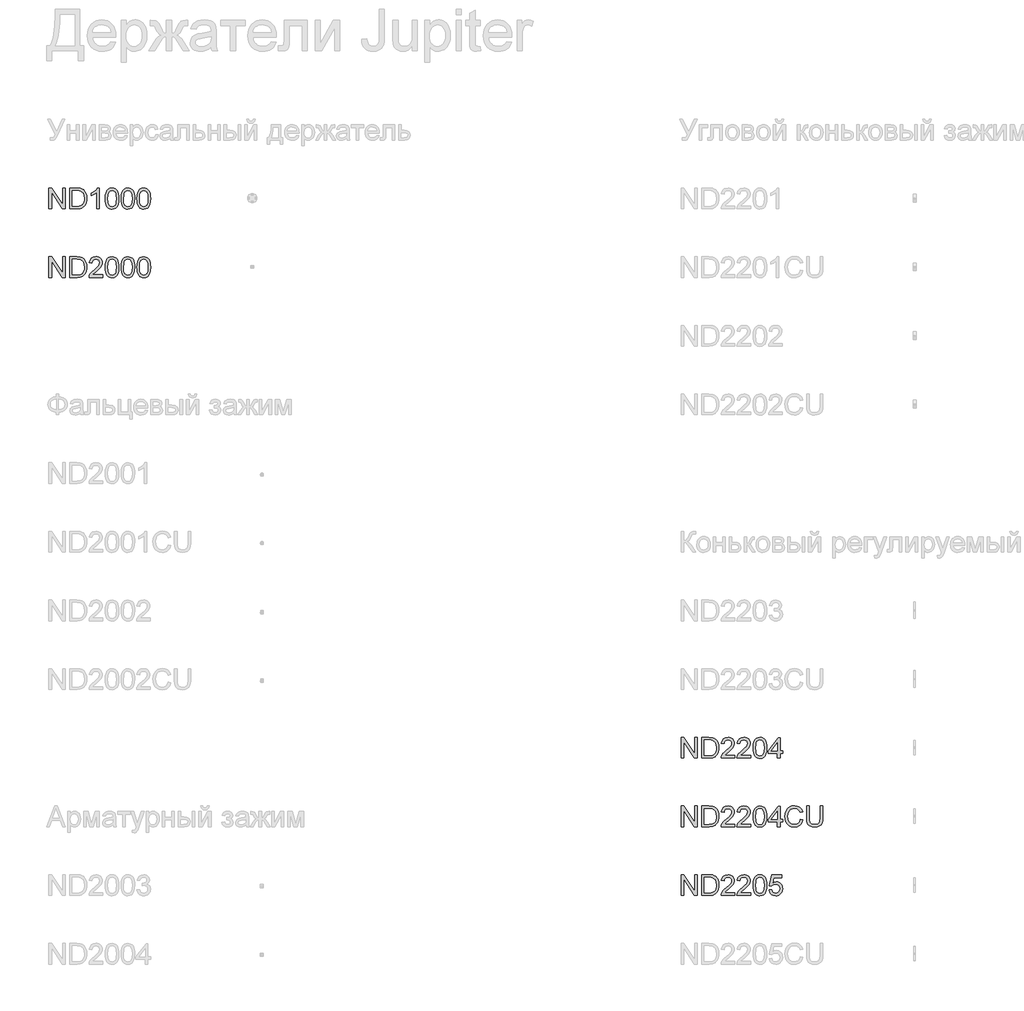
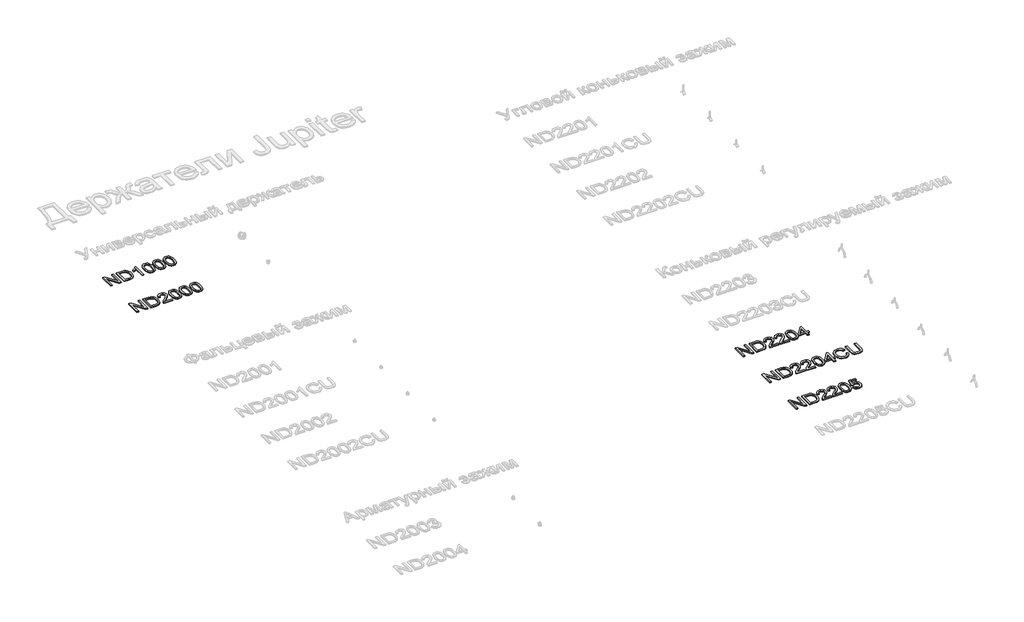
# One storey, part 98 of 124: 5 proxies.
"""IFC4 building model written with IfcOpenShell, lengths in millimetres."""

from ifc_helpers import new_model, si_unit, origin, origin_with_axes, place, context, project, spatial, polyline, outline, extrude, element, save

model = new_model("IFC4")

# Units and contexts
model_context = context("Model", 3, world=origin())
ifc_project = project(units=[si_unit("LENGTHUNIT", "METRE", prefix="MILLI")], contexts=[model_context])

# Site, building, storey
site = spatial("IfcSite", under=ifc_project)
building = spatial("IfcBuilding", under=site)
storey = spatial("IfcBuildingStorey", under=building, Name="Этаж 01", Elevation=0.0)

# Proxies
placement = place(None, origin())
element("IfcBuildingElementProxy", 1, Name="300", ObjectType="300", at=placement, inside=storey, context=model_context, shape_type="SweptSolid", body=[
    extrude(outline(polyline([(14140.1671275, -5519.5141033), (14140.1671275, -5218.1451728), (14180.4869942, -5218.1451728), (14337.9404881, -5456.9005877), (14337.9404881, -5218.1451728), (14375.6116044, -5218.1451728), (14375.6116044, -5519.5141033), (14335.2917378, -5519.5141033), (14177.8382438, -5280.685112), (14177.8382438, -5519.5141033), (14140.1671275, -5519.5141033)])), origin_with_axes(), (0.0, 0.0, 1.0), 20.0),
    extrude(outline(polyline([(14441.536058, -5519.5141033), (14441.536058, -5218.1451728), (14545.4995098, -5218.1451728), (14599.2838575, -5222.4861804), (14623.3065518, -5230.8554957), (14643.5768497, -5244.0440653), (14664.4173648, -5266.9999018), (14679.2614033, -5295.5475446), (14688.1457534, -5329.1351708), (14691.1072035, -5367.2109573), (14689.1022466, -5399.5569817), (14683.087376, -5428.0218511), (14673.9271143, -5452.2560775), (14662.4859843, -5471.9101731), (14649.3158089, -5487.4255962), (14634.968411, -5499.2438053), (14618.4964947, -5508.0085939), (14598.9527637, -5514.3637553), (14550.5027049, -5519.5141033), (14441.536058, -5519.5141033)]), holes=[polyline([(14479.2071743, -5481.842987), (14545.8673918, -5481.842987), (14573.4401473, -5480.4818236), (14594.3542388, -5476.3983334), (14610.1363764, -5469.8316398), (14622.3132704, -5461.020866), (14635.4006724, -5444.7144966), (14645.2323187, -5423.6072671), (14651.3851451, -5397.6072071), (14653.4360872, -5366.6223461), (14649.4169764, -5325.5667154), (14637.359644, -5295.253239), (14619.5449584, -5274.4311181), (14598.2537879, -5261.8495538), (14576.5855384, -5257.3246053), (14544.8373222, -5255.8162891), (14479.2071743, -5255.8162891), (14479.2071743, -5481.842987)])]), origin_with_axes(), (0.0, 0.0, 1.0), 20.0),
    extrude(outline(polyline([(14870.045006, -5519.5141033), (14832.3738897, -5519.5141033), (14832.3738897, -5284.6582375), (14796.6893361, -5310.0788834), (14757.031657, -5329.0983826), (14757.031657, -5293.4874054), (14786.6185665, -5277.3925681), (14812.2507445, -5258.2443103), (14832.4566631, -5237.8820419), (14845.7647943, -5218.1451728), (14870.045006, -5218.1451728), (14870.045006, -5519.5141033)])), origin_with_axes(), (0.0, 0.0, 1.0), 20.0),
    extrude(outline(polyline([(14959.5139072, -5371.2576592), (14962.2822192, -5323.0191326), (14970.5871552, -5284.5478729), (14984.3459419, -5255.2552691), (15003.4758056, -5234.5527098), (15028.1147022, -5222.2470571), (15058.4005875, -5218.1451728), (15081.6139414, -5220.573194), (15102.3992741, -5227.8572575), (15119.7816984, -5239.7122548), (15132.7863269, -5255.8530773), (15142.6087762, -5276.1417694), (15150.4446627, -5300.4403751), (15155.5766165, -5331.2964775), (15157.2872678, -5371.2576592), (15154.5465469, -5419.2202743), (15146.3243843, -5457.5995635), (15132.6483712, -5486.9197585), (15113.5460986, -5507.7050912), (15088.8520196, -5520.0935174), (15058.4005875, -5524.2229928), (15037.652043, -5522.4295681), (15019.2579432, -5517.0492939), (15003.2182882, -5508.0821703), (14989.533078, -5495.5281972), (14976.3996908, -5472.8344766), (14967.0186999, -5444.5581467), (14961.3901054, -5410.6992076), (14959.5139072, -5371.2576592)]), holes=[polyline([(14997.1850235, -5371.1840828), (15001.5996074, -5430.4406752), (15007.1178374, -5450.7086739), (15014.8433593, -5464.7364742), (15034.5618342, -5481.0980259), (15058.4005875, -5486.5518765), (15082.2393408, -5481.0796318), (15101.9578157, -5464.6628978), (15109.6833376, -5450.6121048), (15115.2015675, -5430.3487047), (15119.6161515, -5371.1840828), (15115.3487203, -5313.2610627), (15110.0144314, -5293.0597426), (15102.5464269, -5278.6985492), (15082.8647402, -5261.5368541), (15057.9591291, -5255.8162891), (15034.3778932, -5260.8562725), (15015.4319705, -5275.9762225), (15007.4489312, -5291.6112072), (15001.7467602, -5312.6908456), (14997.1850235, -5371.1840828)])]), origin_with_axes(), (0.0, 0.0, 1.0), 20.0),
    extrude(outline(polyline([(15190.2494946, -5371.2576592), (15193.0178066, -5323.0191326), (15201.3227426, -5284.5478729), (15215.0815292, -5255.2552691), (15234.211393, -5234.5527098), (15258.8502896, -5222.2470571), (15289.1361749, -5218.1451728), (15312.3495288, -5220.573194), (15333.1348615, -5227.8572575), (15350.5172858, -5239.7122548), (15363.5219143, -5255.8530773), (15373.3443636, -5276.1417694), (15381.1802501, -5300.4403751), (15386.3122039, -5331.2964775), (15388.0228552, -5371.2576592), (15385.2821343, -5419.2202743), (15377.0599717, -5457.5995635), (15363.3839585, -5486.9197585), (15344.2816859, -5507.7050912), (15319.587607, -5520.0935174), (15289.1361749, -5524.2229928), (15268.3876303, -5522.4295681), (15249.9935306, -5517.0492939), (15233.9538756, -5508.0821703), (15220.2686654, -5495.5281972), (15207.1352781, -5472.8344766), (15197.7542873, -5444.5581467), (15192.1256927, -5410.6992076), (15190.2494946, -5371.2576592)]), holes=[polyline([(15227.9206109, -5371.1840828), (15232.3351948, -5430.4406752), (15237.8534247, -5450.7086739), (15245.5789466, -5464.7364742), (15265.2974216, -5481.0980259), (15289.1361749, -5486.5518765), (15312.9749282, -5481.0796318), (15332.6934031, -5464.6628978), (15340.418925, -5450.6121048), (15345.9371549, -5430.3487047), (15350.3517389, -5371.1840828), (15346.0843077, -5313.2610627), (15340.7500188, -5293.0597426), (15333.2820143, -5278.6985492), (15313.6003275, -5261.5368541), (15288.6947165, -5255.8162891), (15265.1134806, -5260.8562725), (15246.1675578, -5275.9762225), (15238.1845185, -5291.6112072), (15232.4823476, -5312.6908456), (15227.9206109, -5371.1840828)])]), origin_with_axes(), (0.0, 0.0, 1.0), 20.0),
    extrude(outline(polyline([(15420.9850819, -5371.2576592), (15423.7533939, -5323.0191326), (15432.05833, -5284.5478729), (15445.8171166, -5255.2552691), (15464.9469804, -5234.5527098), (15489.585877, -5222.2470571), (15519.8717622, -5218.1451728), (15543.0851161, -5220.573194), (15563.8704489, -5227.8572575), (15581.2528731, -5239.7122548), (15594.2575017, -5255.8530773), (15604.0799509, -5276.1417694), (15611.9158374, -5300.4403751), (15617.0477913, -5331.2964775), (15618.7584425, -5371.2576592), (15616.0177217, -5419.2202743), (15607.7955591, -5457.5995635), (15594.1195459, -5486.9197585), (15575.0172733, -5507.7050912), (15550.3231944, -5520.0935174), (15519.8717622, -5524.2229928), (15499.1232177, -5522.4295681), (15480.729118, -5517.0492939), (15464.689463, -5508.0821703), (15451.0042527, -5495.5281972), (15437.8708655, -5472.8344766), (15428.4898746, -5444.5581467), (15422.8612801, -5410.6992076), (15420.9850819, -5371.2576592)]), holes=[polyline([(15458.6561982, -5371.1840828), (15463.0707822, -5430.4406752), (15468.5890121, -5450.7086739), (15476.314534, -5464.7364742), (15496.033009, -5481.0980259), (15519.8717622, -5486.5518765), (15543.7105155, -5481.0796318), (15563.4289905, -5464.6628978), (15571.1545124, -5450.6121048), (15576.6727423, -5430.3487047), (15581.0873262, -5371.1840828), (15576.8198951, -5313.2610627), (15571.4856062, -5293.0597426), (15564.0176017, -5278.6985492), (15544.3359149, -5261.5368541), (15519.4303038, -5255.8162891), (15495.849068, -5260.8562725), (15476.9031452, -5275.9762225), (15468.9201059, -5291.6112072), (15463.217935, -5312.6908456), (15458.6561982, -5371.1840828)])]), origin_with_axes(), (0.0, 0.0, 1.0), 20.0),
])
element("IfcBuildingElementProxy", 2, Name="300", ObjectType="300", at=placement, inside=storey, context=model_context, shape_type="SweptSolid", body=[
    extrude(outline(polyline([(14140.1671275, -6519.5141033), (14140.1671275, -6218.1451728), (14180.4869942, -6218.1451728), (14337.9404881, -6456.9005877), (14337.9404881, -6218.1451728), (14375.6116044, -6218.1451728), (14375.6116044, -6519.5141033), (14335.2917378, -6519.5141033), (14177.8382438, -6280.685112), (14177.8382438, -6519.5141033), (14140.1671275, -6519.5141033)])), origin_with_axes(), (0.0, 0.0, 1.0), 20.0),
    extrude(outline(polyline([(14441.536058, -6519.5141033), (14441.536058, -6218.1451728), (14545.4995098, -6218.1451728), (14599.2838575, -6222.4861804), (14623.3065518, -6230.8554957), (14643.5768497, -6244.0440653), (14664.4173648, -6266.9999018), (14679.2614033, -6295.5475446), (14688.1457534, -6329.1351708), (14691.1072035, -6367.2109573), (14689.1022466, -6399.5569817), (14683.087376, -6428.0218511), (14673.9271143, -6452.2560775), (14662.4859843, -6471.9101731), (14649.3158089, -6487.4255962), (14634.968411, -6499.2438053), (14618.4964947, -6508.0085939), (14598.9527637, -6514.3637553), (14550.5027049, -6519.5141033), (14441.536058, -6519.5141033)]), holes=[polyline([(14479.2071743, -6481.842987), (14545.8673918, -6481.842987), (14573.4401473, -6480.4818236), (14594.3542388, -6476.3983334), (14610.1363764, -6469.8316398), (14622.3132704, -6461.020866), (14635.4006724, -6444.7144966), (14645.2323187, -6423.6072671), (14651.3851451, -6397.6072071), (14653.4360872, -6366.6223461), (14649.4169764, -6325.5667154), (14637.359644, -6295.253239), (14619.5449584, -6274.4311181), (14598.2537879, -6261.8495538), (14576.5855384, -6257.3246053), (14544.8373222, -6255.8162891), (14479.2071743, -6255.8162891), (14479.2071743, -6481.842987)])]), origin_with_axes(), (0.0, 0.0, 1.0), 20.0),
    extrude(outline(polyline([(14921.8427909, -6481.842987), (14921.8427909, -6519.5141033), (14724.0694303, -6519.5141033), (14728.1161322, -6493.5416344), (14737.4051526, -6473.2437453), (14750.9983923, -6453.5528615), (14770.661685, -6432.9422727), (14798.1608641, -6409.8852687), (14838.8118246, -6373.7776509), (14863.2024008, -6347.1246003), (14875.397689, -6325.493139), (14879.462785, -6304.4502889), (14875.6276152, -6285.5871396), (14864.1221058, -6269.9061695), (14846.4361789, -6259.3387592), (14824.0597566, -6255.8162891), (14800.5612941, -6259.2559858), (14782.3051501, -6269.5750757), (14770.5237292, -6285.9642186), (14766.4494361, -6307.614074), (14728.7783198, -6302.9051845), (14737.9109903, -6266.4664729), (14746.4573489, -6251.9305355), (14757.6570564, -6239.8502105), (14771.2525954, -6230.3542565), (14786.9864485, -6223.5714322), (14824.869097, -6218.1451728), (14845.0589207, -6219.653489), (14863.0276569, -6224.1784375), (14878.7753056, -6231.7200184), (14892.3018667, -6242.2782317), (14903.1658818, -6255.0713281), (14910.9258927, -6269.3175583), (14915.5818992, -6285.0169225), (14917.1339013, -6302.1694205), (14915.4600383, -6320.1864412), (14910.438449, -6337.8907622), (14901.5265077, -6355.8985859), (14888.1815883, -6374.8261146), (14866.9088119, -6397.4232661), (14834.2132996, -6426.4399585), (14790.8768006, -6462.676335), (14773.8806524, -6481.842987), (14921.8427909, -6481.842987)])), origin_with_axes(), (0.0, 0.0, 1.0), 20.0),
    extrude(outline(polyline([(14959.5139072, -6371.2576592), (14962.2822192, -6323.0191326), (14970.5871552, -6284.5478729), (14984.3459419, -6255.2552691), (15003.4758056, -6234.5527098), (15028.1147022, -6222.2470571), (15058.4005875, -6218.1451728), (15081.6139414, -6220.573194), (15102.3992741, -6227.8572575), (15119.7816984, -6239.7122548), (15132.7863269, -6255.8530773), (15142.6087762, -6276.1417694), (15150.4446627, -6300.4403751), (15155.5766165, -6331.2964775), (15157.2872678, -6371.2576592), (15154.5465469, -6419.2202743), (15146.3243843, -6457.5995635), (15132.6483712, -6486.9197585), (15113.5460986, -6507.7050912), (15088.8520196, -6520.0935174), (15058.4005875, -6524.2229928), (15037.652043, -6522.4295681), (15019.2579432, -6517.0492939), (15003.2182882, -6508.0821703), (14989.533078, -6495.5281972), (14976.3996908, -6472.8344766), (14967.0186999, -6444.5581467), (14961.3901054, -6410.6992076), (14959.5139072, -6371.2576592)]), holes=[polyline([(14997.1850235, -6371.1840828), (15001.5996074, -6430.4406752), (15007.1178374, -6450.7086739), (15014.8433593, -6464.7364742), (15034.5618342, -6481.0980259), (15058.4005875, -6486.5518765), (15082.2393408, -6481.0796318), (15101.9578157, -6464.6628978), (15109.6833376, -6450.6121048), (15115.2015675, -6430.3487047), (15119.6161515, -6371.1840828), (15115.3487203, -6313.2610627), (15110.0144314, -6293.0597426), (15102.5464269, -6278.6985492), (15082.8647402, -6261.5368541), (15057.9591291, -6255.8162891), (15034.3778932, -6260.8562725), (15015.4319705, -6275.9762225), (15007.4489312, -6291.6112072), (15001.7467602, -6312.6908456), (14997.1850235, -6371.1840828)])]), origin_with_axes(), (0.0, 0.0, 1.0), 20.0),
    extrude(outline(polyline([(15190.2494946, -6371.2576592), (15193.0178066, -6323.0191326), (15201.3227426, -6284.5478729), (15215.0815292, -6255.2552691), (15234.211393, -6234.5527098), (15258.8502896, -6222.2470571), (15289.1361749, -6218.1451728), (15312.3495288, -6220.573194), (15333.1348615, -6227.8572575), (15350.5172858, -6239.7122548), (15363.5219143, -6255.8530773), (15373.3443636, -6276.1417694), (15381.1802501, -6300.4403751), (15386.3122039, -6331.2964775), (15388.0228552, -6371.2576592), (15385.2821343, -6419.2202743), (15377.0599717, -6457.5995635), (15363.3839585, -6486.9197585), (15344.2816859, -6507.7050912), (15319.587607, -6520.0935174), (15289.1361749, -6524.2229928), (15268.3876303, -6522.4295681), (15249.9935306, -6517.0492939), (15233.9538756, -6508.0821703), (15220.2686654, -6495.5281972), (15207.1352781, -6472.8344766), (15197.7542873, -6444.5581467), (15192.1256927, -6410.6992076), (15190.2494946, -6371.2576592)]), holes=[polyline([(15227.9206109, -6371.1840828), (15232.3351948, -6430.4406752), (15237.8534247, -6450.7086739), (15245.5789466, -6464.7364742), (15265.2974216, -6481.0980259), (15289.1361749, -6486.5518765), (15312.9749282, -6481.0796318), (15332.6934031, -6464.6628978), (15340.418925, -6450.6121048), (15345.9371549, -6430.3487047), (15350.3517389, -6371.1840828), (15346.0843077, -6313.2610627), (15340.7500188, -6293.0597426), (15333.2820143, -6278.6985492), (15313.6003275, -6261.5368541), (15288.6947165, -6255.8162891), (15265.1134806, -6260.8562725), (15246.1675578, -6275.9762225), (15238.1845185, -6291.6112072), (15232.4823476, -6312.6908456), (15227.9206109, -6371.1840828)])]), origin_with_axes(), (0.0, 0.0, 1.0), 20.0),
    extrude(outline(polyline([(15420.9850819, -6371.2576592), (15423.7533939, -6323.0191326), (15432.05833, -6284.5478729), (15445.8171166, -6255.2552691), (15464.9469804, -6234.5527098), (15489.585877, -6222.2470571), (15519.8717622, -6218.1451728), (15543.0851161, -6220.573194), (15563.8704489, -6227.8572575), (15581.2528731, -6239.7122548), (15594.2575017, -6255.8530773), (15604.0799509, -6276.1417694), (15611.9158374, -6300.4403751), (15617.0477913, -6331.2964775), (15618.7584425, -6371.2576592), (15616.0177217, -6419.2202743), (15607.7955591, -6457.5995635), (15594.1195459, -6486.9197585), (15575.0172733, -6507.7050912), (15550.3231944, -6520.0935174), (15519.8717622, -6524.2229928), (15499.1232177, -6522.4295681), (15480.729118, -6517.0492939), (15464.689463, -6508.0821703), (15451.0042527, -6495.5281972), (15437.8708655, -6472.8344766), (15428.4898746, -6444.5581467), (15422.8612801, -6410.6992076), (15420.9850819, -6371.2576592)]), holes=[polyline([(15458.6561982, -6371.1840828), (15463.0707822, -6430.4406752), (15468.5890121, -6450.7086739), (15476.314534, -6464.7364742), (15496.033009, -6481.0980259), (15519.8717622, -6486.5518765), (15543.7105155, -6481.0796318), (15563.4289905, -6464.6628978), (15571.1545124, -6450.6121048), (15576.6727423, -6430.3487047), (15581.0873262, -6371.1840828), (15576.8198951, -6313.2610627), (15571.4856062, -6293.0597426), (15564.0176017, -6278.6985492), (15544.3359149, -6261.5368541), (15519.4303038, -6255.8162891), (15495.849068, -6260.8562725), (15476.9031452, -6275.9762225), (15468.9201059, -6291.6112072), (15463.217935, -6312.6908456), (15458.6561982, -6371.1840828)])]), origin_with_axes(), (0.0, 0.0, 1.0), 20.0),
])
element("IfcBuildingElementProxy", 3, Name="300", ObjectType="300", at=placement, inside=storey, context=model_context, shape_type="SweptSolid", body=[
    extrude(outline(polyline([(23340.1671275, -13519.5141033), (23340.1671275, -13218.1451728), (23380.4869942, -13218.1451728), (23537.9404881, -13456.9005877), (23537.9404881, -13218.1451728), (23575.6116044, -13218.1451728), (23575.6116044, -13519.5141033), (23535.2917378, -13519.5141033), (23377.8382438, -13280.685112), (23377.8382438, -13519.5141033), (23340.1671275, -13519.5141033)])), origin_with_axes(), (0.0, 0.0, 1.0), 20.0),
    extrude(outline(polyline([(23641.536058, -13519.5141033), (23641.536058, -13218.1451728), (23745.4995098, -13218.1451728), (23799.2838575, -13222.4861804), (23823.3065518, -13230.8554957), (23843.5768497, -13244.0440653), (23864.4173648, -13266.9999018), (23879.2614033, -13295.5475446), (23888.1457534, -13329.1351708), (23891.1072035, -13367.2109573), (23889.1022466, -13399.5569817), (23883.087376, -13428.0218511), (23873.9271143, -13452.2560775), (23862.4859843, -13471.9101731), (23849.3158089, -13487.4255962), (23834.968411, -13499.2438053), (23818.4964947, -13508.0085939), (23798.9527637, -13514.3637553), (23750.5027049, -13519.5141033), (23641.536058, -13519.5141033)]), holes=[polyline([(23679.2071743, -13481.842987), (23745.8673918, -13481.842987), (23773.4401473, -13480.4818236), (23794.3542388, -13476.3983334), (23810.1363764, -13469.8316398), (23822.3132704, -13461.020866), (23835.4006724, -13444.7144966), (23845.2323187, -13423.6072671), (23851.3851451, -13397.6072071), (23853.4360872, -13366.6223461), (23849.4169764, -13325.5667154), (23837.359644, -13295.253239), (23819.5449584, -13274.4311181), (23798.2537879, -13261.8495538), (23776.5855384, -13257.3246053), (23744.8373222, -13255.8162891), (23679.2071743, -13255.8162891), (23679.2071743, -13481.842987)])]), origin_with_axes(), (0.0, 0.0, 1.0), 20.0),
    extrude(outline(polyline([(24121.8427909, -13481.842987), (24121.8427909, -13519.5141033), (23924.0694303, -13519.5141033), (23928.1161322, -13493.5416344), (23937.4051526, -13473.2437453), (23950.9983923, -13453.5528615), (23970.661685, -13432.9422727), (23998.1608641, -13409.8852687), (24038.8118246, -13373.7776509), (24063.2024008, -13347.1246003), (24075.397689, -13325.493139), (24079.462785, -13304.4502889), (24075.6276152, -13285.5871396), (24064.1221058, -13269.9061695), (24046.4361789, -13259.3387592), (24024.0597566, -13255.8162891), (24000.5612941, -13259.2559858), (23982.3051501, -13269.5750757), (23970.5237292, -13285.9642186), (23966.4494361, -13307.614074), (23928.7783198, -13302.9051845), (23937.9109903, -13266.4664729), (23946.4573489, -13251.9305355), (23957.6570564, -13239.8502105), (23971.2525954, -13230.3542565), (23986.9864485, -13223.5714322), (24024.869097, -13218.1451728), (24045.0589207, -13219.653489), (24063.0276569, -13224.1784375), (24078.7753056, -13231.7200184), (24092.3018667, -13242.2782317), (24103.1658818, -13255.0713281), (24110.9258927, -13269.3175583), (24115.5818992, -13285.0169225), (24117.1339013, -13302.1694205), (24115.4600383, -13320.1864412), (24110.438449, -13337.8907622), (24101.5265077, -13355.8985859), (24088.1815883, -13374.8261146), (24066.9088119, -13397.4232661), (24034.2132996, -13426.4399585), (23990.8768006, -13462.676335), (23973.8806524, -13481.842987), (24121.8427909, -13481.842987)])), origin_with_axes(), (0.0, 0.0, 1.0), 20.0),
    extrude(outline(polyline([(24352.5783783, -13481.842987), (24352.5783783, -13519.5141033), (24154.8050176, -13519.5141033), (24158.8517196, -13493.5416344), (24168.14074, -13473.2437453), (24181.7339797, -13453.5528615), (24201.3972723, -13432.9422727), (24228.8964515, -13409.8852687), (24269.5474119, -13373.7776509), (24293.9379882, -13347.1246003), (24306.1332764, -13325.493139), (24310.1983724, -13304.4502889), (24306.3632026, -13285.5871396), (24294.8576932, -13269.9061695), (24277.1717663, -13259.3387592), (24254.7953439, -13255.8162891), (24231.2968815, -13259.2559858), (24213.0407375, -13269.5750757), (24201.2593166, -13285.9642186), (24197.1850235, -13307.614074), (24159.5139072, -13302.9051845), (24168.6465777, -13266.4664729), (24177.1929363, -13251.9305355), (24188.3926438, -13239.8502105), (24201.9881828, -13230.3542565), (24217.7220359, -13223.5714322), (24255.6046843, -13218.1451728), (24275.7945081, -13219.653489), (24293.7632443, -13224.1784375), (24309.5108929, -13231.7200184), (24323.037454, -13242.2782317), (24333.9014692, -13255.0713281), (24341.66148, -13269.3175583), (24346.3174865, -13285.0169225), (24347.8694887, -13302.1694205), (24346.1956256, -13320.1864412), (24341.1740364, -13337.8907622), (24332.2620951, -13355.8985859), (24318.9171757, -13374.8261146), (24297.6443993, -13397.4232661), (24264.948887, -13426.4399585), (24221.612388, -13462.676335), (24204.6162398, -13481.842987), (24352.5783783, -13481.842987)])), origin_with_axes(), (0.0, 0.0, 1.0), 20.0),
    extrude(outline(polyline([(24390.2494946, -13371.2576592), (24393.0178066, -13323.0191326), (24401.3227426, -13284.5478729), (24415.0815292, -13255.2552691), (24434.211393, -13234.5527098), (24458.8502896, -13222.2470571), (24489.1361749, -13218.1451728), (24512.3495288, -13220.573194), (24533.1348615, -13227.8572575), (24550.5172858, -13239.7122548), (24563.5219143, -13255.8530773), (24573.3443636, -13276.1417694), (24581.1802501, -13300.4403751), (24586.3122039, -13331.2964775), (24588.0228552, -13371.2576592), (24585.2821343, -13419.2202743), (24577.0599717, -13457.5995635), (24563.3839585, -13486.9197585), (24544.2816859, -13507.7050912), (24519.587607, -13520.0935174), (24489.1361749, -13524.2229928), (24468.3876303, -13522.4295681), (24449.9935306, -13517.0492939), (24433.9538756, -13508.0821703), (24420.2686654, -13495.5281972), (24407.1352781, -13472.8344766), (24397.7542873, -13444.5581467), (24392.1256927, -13410.6992076), (24390.2494946, -13371.2576592)]), holes=[polyline([(24427.9206109, -13371.1840828), (24432.3351948, -13430.4406752), (24437.8534247, -13450.7086739), (24445.5789466, -13464.7364742), (24465.2974216, -13481.0980259), (24489.1361749, -13486.5518765), (24512.9749282, -13481.0796318), (24532.6934031, -13464.6628978), (24540.418925, -13450.6121048), (24545.9371549, -13430.3487047), (24550.3517389, -13371.1840828), (24546.0843077, -13313.2610627), (24540.7500188, -13293.0597426), (24533.2820143, -13278.6985492), (24513.6003275, -13261.5368541), (24488.6947165, -13255.8162891), (24465.1134806, -13260.8562725), (24446.1675578, -13275.9762225), (24438.1845185, -13291.6112072), (24432.4823476, -13312.6908456), (24427.9206109, -13371.1840828)])]), origin_with_axes(), (0.0, 0.0, 1.0), 20.0),
    extrude(outline(polyline([(24743.4162099, -13519.5141033), (24743.4162099, -13448.8807602), (24606.8584133, -13448.8807602), (24606.8584133, -13411.2096439), (24752.833989, -13222.8540624), (24781.0873262, -13222.8540624), (24781.0873262, -13411.2096439), (24818.7584425, -13411.2096439), (24818.7584425, -13448.8807602), (24781.0873262, -13448.8807602), (24781.0873262, -13519.5141033), (24743.4162099, -13519.5141033)]), holes=[polyline([(24743.4162099, -13411.2096439), (24743.4162099, -13294.8117806), (24653.2115447, -13411.2096439), (24743.4162099, -13411.2096439)])]), origin_with_axes(), (0.0, 0.0, 1.0), 20.0),
])
element("IfcBuildingElementProxy", 4, Name="300", ObjectType="300", at=placement, inside=storey, context=model_context, shape_type="SweptSolid", body=[
    extrude(outline(polyline([(23340.1671275, -14519.5141033), (23340.1671275, -14218.1451728), (23380.4869942, -14218.1451728), (23537.9404881, -14456.9005877), (23537.9404881, -14218.1451728), (23575.6116044, -14218.1451728), (23575.6116044, -14519.5141033), (23535.2917378, -14519.5141033), (23377.8382438, -14280.685112), (23377.8382438, -14519.5141033), (23340.1671275, -14519.5141033)])), origin_with_axes(), (0.0, 0.0, 1.0), 20.0),
    extrude(outline(polyline([(23641.536058, -14519.5141033), (23641.536058, -14218.1451728), (23745.4995098, -14218.1451728), (23799.2838575, -14222.4861804), (23823.3065518, -14230.8554957), (23843.5768497, -14244.0440653), (23864.4173648, -14266.9999018), (23879.2614033, -14295.5475446), (23888.1457534, -14329.1351708), (23891.1072035, -14367.2109573), (23889.1022466, -14399.5569817), (23883.087376, -14428.0218511), (23873.9271143, -14452.2560775), (23862.4859843, -14471.9101731), (23849.3158089, -14487.4255962), (23834.968411, -14499.2438053), (23818.4964947, -14508.0085939), (23798.9527637, -14514.3637553), (23750.5027049, -14519.5141033), (23641.536058, -14519.5141033)]), holes=[polyline([(23679.2071743, -14481.842987), (23745.8673918, -14481.842987), (23773.4401473, -14480.4818236), (23794.3542388, -14476.3983334), (23810.1363764, -14469.8316398), (23822.3132704, -14461.020866), (23835.4006724, -14444.7144966), (23845.2323187, -14423.6072671), (23851.3851451, -14397.6072071), (23853.4360872, -14366.6223461), (23849.4169764, -14325.5667154), (23837.359644, -14295.253239), (23819.5449584, -14274.4311181), (23798.2537879, -14261.8495538), (23776.5855384, -14257.3246053), (23744.8373222, -14255.8162891), (23679.2071743, -14255.8162891), (23679.2071743, -14481.842987)])]), origin_with_axes(), (0.0, 0.0, 1.0), 20.0),
    extrude(outline(polyline([(24121.8427909, -14481.842987), (24121.8427909, -14519.5141033), (23924.0694303, -14519.5141033), (23928.1161322, -14493.5416344), (23937.4051526, -14473.2437453), (23950.9983923, -14453.5528615), (23970.661685, -14432.9422727), (23998.1608641, -14409.8852687), (24038.8118246, -14373.7776509), (24063.2024008, -14347.1246003), (24075.397689, -14325.493139), (24079.462785, -14304.4502889), (24075.6276152, -14285.5871396), (24064.1221058, -14269.9061695), (24046.4361789, -14259.3387592), (24024.0597566, -14255.8162891), (24000.5612941, -14259.2559858), (23982.3051501, -14269.5750757), (23970.5237292, -14285.9642186), (23966.4494361, -14307.614074), (23928.7783198, -14302.9051845), (23937.9109903, -14266.4664729), (23946.4573489, -14251.9305355), (23957.6570564, -14239.8502105), (23971.2525954, -14230.3542565), (23986.9864485, -14223.5714322), (24024.869097, -14218.1451728), (24045.0589207, -14219.653489), (24063.0276569, -14224.1784375), (24078.7753056, -14231.7200184), (24092.3018667, -14242.2782317), (24103.1658818, -14255.0713281), (24110.9258927, -14269.3175583), (24115.5818992, -14285.0169225), (24117.1339013, -14302.1694205), (24115.4600383, -14320.1864412), (24110.438449, -14337.8907622), (24101.5265077, -14355.8985859), (24088.1815883, -14374.8261146), (24066.9088119, -14397.4232661), (24034.2132996, -14426.4399585), (23990.8768006, -14462.676335), (23973.8806524, -14481.842987), (24121.8427909, -14481.842987)])), origin_with_axes(), (0.0, 0.0, 1.0), 20.0),
    extrude(outline(polyline([(24352.5783783, -14481.842987), (24352.5783783, -14519.5141033), (24154.8050176, -14519.5141033), (24158.8517196, -14493.5416344), (24168.14074, -14473.2437453), (24181.7339797, -14453.5528615), (24201.3972723, -14432.9422727), (24228.8964515, -14409.8852687), (24269.5474119, -14373.7776509), (24293.9379882, -14347.1246003), (24306.1332764, -14325.493139), (24310.1983724, -14304.4502889), (24306.3632026, -14285.5871396), (24294.8576932, -14269.9061695), (24277.1717663, -14259.3387592), (24254.7953439, -14255.8162891), (24231.2968815, -14259.2559858), (24213.0407375, -14269.5750757), (24201.2593166, -14285.9642186), (24197.1850235, -14307.614074), (24159.5139072, -14302.9051845), (24168.6465777, -14266.4664729), (24177.1929363, -14251.9305355), (24188.3926438, -14239.8502105), (24201.9881828, -14230.3542565), (24217.7220359, -14223.5714322), (24255.6046843, -14218.1451728), (24275.7945081, -14219.653489), (24293.7632443, -14224.1784375), (24309.5108929, -14231.7200184), (24323.037454, -14242.2782317), (24333.9014692, -14255.0713281), (24341.66148, -14269.3175583), (24346.3174865, -14285.0169225), (24347.8694887, -14302.1694205), (24346.1956256, -14320.1864412), (24341.1740364, -14337.8907622), (24332.2620951, -14355.8985859), (24318.9171757, -14374.8261146), (24297.6443993, -14397.4232661), (24264.948887, -14426.4399585), (24221.612388, -14462.676335), (24204.6162398, -14481.842987), (24352.5783783, -14481.842987)])), origin_with_axes(), (0.0, 0.0, 1.0), 20.0),
    extrude(outline(polyline([(24390.2494946, -14371.2576592), (24393.0178066, -14323.0191326), (24401.3227426, -14284.5478729), (24415.0815292, -14255.2552691), (24434.211393, -14234.5527098), (24458.8502896, -14222.2470571), (24489.1361749, -14218.1451728), (24512.3495288, -14220.573194), (24533.1348615, -14227.8572575), (24550.5172858, -14239.7122548), (24563.5219143, -14255.8530773), (24573.3443636, -14276.1417694), (24581.1802501, -14300.4403751), (24586.3122039, -14331.2964775), (24588.0228552, -14371.2576592), (24585.2821343, -14419.2202743), (24577.0599717, -14457.5995635), (24563.3839585, -14486.9197585), (24544.2816859, -14507.7050912), (24519.587607, -14520.0935174), (24489.1361749, -14524.2229928), (24468.3876303, -14522.4295681), (24449.9935306, -14517.0492939), (24433.9538756, -14508.0821703), (24420.2686654, -14495.5281972), (24407.1352781, -14472.8344766), (24397.7542873, -14444.5581467), (24392.1256927, -14410.6992076), (24390.2494946, -14371.2576592)]), holes=[polyline([(24427.9206109, -14371.1840828), (24432.3351948, -14430.4406752), (24437.8534247, -14450.7086739), (24445.5789466, -14464.7364742), (24465.2974216, -14481.0980259), (24489.1361749, -14486.5518765), (24512.9749282, -14481.0796318), (24532.6934031, -14464.6628978), (24540.418925, -14450.6121048), (24545.9371549, -14430.3487047), (24550.3517389, -14371.1840828), (24546.0843077, -14313.2610627), (24540.7500188, -14293.0597426), (24533.2820143, -14278.6985492), (24513.6003275, -14261.5368541), (24488.6947165, -14255.8162891), (24465.1134806, -14260.8562725), (24446.1675578, -14275.9762225), (24438.1845185, -14291.6112072), (24432.4823476, -14312.6908456), (24427.9206109, -14371.1840828)])]), origin_with_axes(), (0.0, 0.0, 1.0), 20.0),
    extrude(outline(polyline([(24743.4162099, -14519.5141033), (24743.4162099, -14448.8807602), (24606.8584133, -14448.8807602), (24606.8584133, -14411.2096439), (24752.833989, -14222.8540624), (24781.0873262, -14222.8540624), (24781.0873262, -14411.2096439), (24818.7584425, -14411.2096439), (24818.7584425, -14448.8807602), (24781.0873262, -14448.8807602), (24781.0873262, -14519.5141033), (24743.4162099, -14519.5141033)]), holes=[polyline([(24743.4162099, -14411.2096439), (24743.4162099, -14294.8117806), (24653.2115447, -14411.2096439), (24743.4162099, -14411.2096439)])]), origin_with_axes(), (0.0, 0.0, 1.0), 20.0),
    extrude(outline(polyline([(25077.7473671, -14412.3868663), (25115.4184835, -14422.0989509), (25107.9642745, -14445.5261362), (25098.0360592, -14465.99647), (25085.6338374, -14483.5099522), (25070.7576092, -14498.0665829), (25053.743067, -14509.5100123), (25034.9259029, -14517.6838903), (25014.3061171, -14522.5882172), (24991.8837095, -14524.2229928), (24948.1885255, -14519.27498), (24913.4880563, -14504.4309415), (24886.890188, -14480.2059121), (24867.5028069, -14447.1149266), (24855.6662037, -14408.2114056), (24851.7206693, -14366.5487697), (24856.1812385, -14322.6052653), (24869.5629461, -14284.6582375), (24891.1668162, -14253.9124998), (24920.2938732, -14231.5728656), (24954.8379926, -14217.9704289), (24992.6930499, -14213.4362833), (25033.9970009, -14219.3040011), (25051.9657371, -14226.6386484), (25068.1456471, -14236.9071546), (25082.2700164, -14249.8382067), (25094.0721307, -14265.1604918), (25110.7095939, -14302.9787609), (25073.0384776, -14311.9550816), (25059.9786668, -14284.4834936), (25042.13639, -14265.6387384), (25019.2909181, -14254.7402343), (24991.2215219, -14251.1073996), (24958.8663004, -14255.1357074), (24932.2868263, -14267.220631), (24912.1176959, -14286.0929773), (24898.9935057, -14310.4835536), (24891.7922156, -14338.0563091), (24889.3917856, -14366.4751933), (24892.233674, -14401.27683), (24900.7593393, -14431.3695772), (24915.2906781, -14455.6038036), (24936.1495872, -14472.8298781), (24961.1563658, -14483.1213769), (24988.1313131, -14486.5518765), (25019.5760267, -14481.8797752), (25045.7784218, -14467.8634711), (25065.5612761, -14444.6501172), (25077.7473671, -14412.3868663)])), origin_with_axes(), (0.0, 0.0, 1.0), 20.0),
    extrude(outline(polyline([(25364.989629, -14218.1451728), (25402.6607453, -14218.1451728), (25402.6607453, -14392.0062037), (25400.1039654, -14432.7215435), (25392.4336258, -14464.0742866), (25378.1046221, -14488.2625278), (25355.5718499, -14507.484362), (25324.7801269, -14520.0383351), (25285.6742708, -14524.2229928), (25247.4237404, -14520.580961), (25216.8435495, -14509.6548658), (25193.9245012, -14491.8217861), (25178.6573984, -14467.4588009), (25170.0765509, -14434.7816827), (25167.2162684, -14392.0062037), (25167.2162684, -14218.1451728), (25204.8873847, -14218.1451728), (25204.8873847, -14390.6818285), (25206.7451888, -14424.5361692), (25212.318601, -14448.108208), (25222.4169618, -14464.4329715), (25237.8496114, -14476.5454862), (25257.9727566, -14484.0502789), (25282.1426037, -14486.5518765), (25320.4575135, -14481.6038637), (25334.8003128, -14475.4188476), (25345.9333416, -14466.7598252), (25354.2704673, -14454.5829311), (25360.2255571, -14437.8443003), (25364.989629, -14390.6818285), (25364.989629, -14218.1451728)])), origin_with_axes(), (0.0, 0.0, 1.0), 20.0),
])
element("IfcBuildingElementProxy", 5, Name="300", ObjectType="300", at=placement, inside=storey, context=model_context, shape_type="SweptSolid", body=[
    extrude(outline(polyline([(23340.1671275, -15519.5141033), (23340.1671275, -15218.1451728), (23380.4869942, -15218.1451728), (23537.9404881, -15456.9005877), (23537.9404881, -15218.1451728), (23575.6116044, -15218.1451728), (23575.6116044, -15519.5141033), (23535.2917378, -15519.5141033), (23377.8382438, -15280.685112), (23377.8382438, -15519.5141033), (23340.1671275, -15519.5141033)])), origin_with_axes(), (0.0, 0.0, 1.0), 20.0),
    extrude(outline(polyline([(23641.536058, -15519.5141033), (23641.536058, -15218.1451728), (23745.4995098, -15218.1451728), (23799.2838575, -15222.4861804), (23823.3065518, -15230.8554957), (23843.5768497, -15244.0440653), (23864.4173648, -15266.9999018), (23879.2614033, -15295.5475446), (23888.1457534, -15329.1351708), (23891.1072035, -15367.2109573), (23889.1022466, -15399.5569817), (23883.087376, -15428.0218511), (23873.9271143, -15452.2560775), (23862.4859843, -15471.9101731), (23849.3158089, -15487.4255962), (23834.968411, -15499.2438053), (23818.4964947, -15508.0085939), (23798.9527637, -15514.3637553), (23750.5027049, -15519.5141033), (23641.536058, -15519.5141033)]), holes=[polyline([(23679.2071743, -15481.842987), (23745.8673918, -15481.842987), (23773.4401473, -15480.4818236), (23794.3542388, -15476.3983334), (23810.1363764, -15469.8316398), (23822.3132704, -15461.020866), (23835.4006724, -15444.7144966), (23845.2323187, -15423.6072671), (23851.3851451, -15397.6072071), (23853.4360872, -15366.6223461), (23849.4169764, -15325.5667154), (23837.359644, -15295.253239), (23819.5449584, -15274.4311181), (23798.2537879, -15261.8495538), (23776.5855384, -15257.3246053), (23744.8373222, -15255.8162891), (23679.2071743, -15255.8162891), (23679.2071743, -15481.842987)])]), origin_with_axes(), (0.0, 0.0, 1.0), 20.0),
    extrude(outline(polyline([(24121.8427909, -15481.842987), (24121.8427909, -15519.5141033), (23924.0694303, -15519.5141033), (23928.1161322, -15493.5416344), (23937.4051526, -15473.2437453), (23950.9983923, -15453.5528615), (23970.661685, -15432.9422727), (23998.1608641, -15409.8852687), (24038.8118246, -15373.7776509), (24063.2024008, -15347.1246003), (24075.397689, -15325.493139), (24079.462785, -15304.4502889), (24075.6276152, -15285.5871396), (24064.1221058, -15269.9061695), (24046.4361789, -15259.3387592), (24024.0597566, -15255.8162891), (24000.5612941, -15259.2559858), (23982.3051501, -15269.5750757), (23970.5237292, -15285.9642186), (23966.4494361, -15307.614074), (23928.7783198, -15302.9051845), (23937.9109903, -15266.4664729), (23946.4573489, -15251.9305355), (23957.6570564, -15239.8502105), (23971.2525954, -15230.3542565), (23986.9864485, -15223.5714322), (24024.869097, -15218.1451728), (24045.0589207, -15219.653489), (24063.0276569, -15224.1784375), (24078.7753056, -15231.7200184), (24092.3018667, -15242.2782317), (24103.1658818, -15255.0713281), (24110.9258927, -15269.3175583), (24115.5818992, -15285.0169225), (24117.1339013, -15302.1694205), (24115.4600383, -15320.1864412), (24110.438449, -15337.8907622), (24101.5265077, -15355.8985859), (24088.1815883, -15374.8261146), (24066.9088119, -15397.4232661), (24034.2132996, -15426.4399585), (23990.8768006, -15462.676335), (23973.8806524, -15481.842987), (24121.8427909, -15481.842987)])), origin_with_axes(), (0.0, 0.0, 1.0), 20.0),
    extrude(outline(polyline([(24352.5783783, -15481.842987), (24352.5783783, -15519.5141033), (24154.8050176, -15519.5141033), (24158.8517196, -15493.5416344), (24168.14074, -15473.2437453), (24181.7339797, -15453.5528615), (24201.3972723, -15432.9422727), (24228.8964515, -15409.8852687), (24269.5474119, -15373.7776509), (24293.9379882, -15347.1246003), (24306.1332764, -15325.493139), (24310.1983724, -15304.4502889), (24306.3632026, -15285.5871396), (24294.8576932, -15269.9061695), (24277.1717663, -15259.3387592), (24254.7953439, -15255.8162891), (24231.2968815, -15259.2559858), (24213.0407375, -15269.5750757), (24201.2593166, -15285.9642186), (24197.1850235, -15307.614074), (24159.5139072, -15302.9051845), (24168.6465777, -15266.4664729), (24177.1929363, -15251.9305355), (24188.3926438, -15239.8502105), (24201.9881828, -15230.3542565), (24217.7220359, -15223.5714322), (24255.6046843, -15218.1451728), (24275.7945081, -15219.653489), (24293.7632443, -15224.1784375), (24309.5108929, -15231.7200184), (24323.037454, -15242.2782317), (24333.9014692, -15255.0713281), (24341.66148, -15269.3175583), (24346.3174865, -15285.0169225), (24347.8694887, -15302.1694205), (24346.1956256, -15320.1864412), (24341.1740364, -15337.8907622), (24332.2620951, -15355.8985859), (24318.9171757, -15374.8261146), (24297.6443993, -15397.4232661), (24264.948887, -15426.4399585), (24221.612388, -15462.676335), (24204.6162398, -15481.842987), (24352.5783783, -15481.842987)])), origin_with_axes(), (0.0, 0.0, 1.0), 20.0),
    extrude(outline(polyline([(24390.2494946, -15371.2576592), (24393.0178066, -15323.0191326), (24401.3227426, -15284.5478729), (24415.0815292, -15255.2552691), (24434.211393, -15234.5527098), (24458.8502896, -15222.2470571), (24489.1361749, -15218.1451728), (24512.3495288, -15220.573194), (24533.1348615, -15227.8572575), (24550.5172858, -15239.7122548), (24563.5219143, -15255.8530773), (24573.3443636, -15276.1417694), (24581.1802501, -15300.4403751), (24586.3122039, -15331.2964775), (24588.0228552, -15371.2576592), (24585.2821343, -15419.2202743), (24577.0599717, -15457.5995635), (24563.3839585, -15486.9197585), (24544.2816859, -15507.7050912), (24519.587607, -15520.0935174), (24489.1361749, -15524.2229928), (24468.3876303, -15522.4295681), (24449.9935306, -15517.0492939), (24433.9538756, -15508.0821703), (24420.2686654, -15495.5281972), (24407.1352781, -15472.8344766), (24397.7542873, -15444.5581467), (24392.1256927, -15410.6992076), (24390.2494946, -15371.2576592)]), holes=[polyline([(24427.9206109, -15371.1840828), (24432.3351948, -15430.4406752), (24437.8534247, -15450.7086739), (24445.5789466, -15464.7364742), (24465.2974216, -15481.0980259), (24489.1361749, -15486.5518765), (24512.9749282, -15481.0796318), (24532.6934031, -15464.6628978), (24540.418925, -15450.6121048), (24545.9371549, -15430.3487047), (24550.3517389, -15371.1840828), (24546.0843077, -15313.2610627), (24540.7500188, -15293.0597426), (24533.2820143, -15278.6985492), (24513.6003275, -15261.5368541), (24488.6947165, -15255.8162891), (24465.1134806, -15260.8562725), (24446.1675578, -15275.9762225), (24438.1845185, -15291.6112072), (24432.4823476, -15312.6908456), (24427.9206109, -15371.1840828)])]), origin_with_axes(), (0.0, 0.0, 1.0), 20.0),
    extrude(outline(polyline([(24620.9850819, -15439.4629811), (24658.6561982, -15434.7540916), (24665.5723798, -15457.3696372), (24677.6389092, -15473.5656421), (24694.8006043, -15483.3053179), (24717.0022827, -15486.5518765), (24744.0048211, -15482.036125), (24764.2383309, -15468.4888705), (24776.8750774, -15447.4736116), (24781.0873262, -15420.5538466), (24777.1417918, -15395.2067771), (24765.3051886, -15375.8193959), (24745.4855462, -15363.5137432), (24717.5908939, -15359.411859), (24699.3163558, -15361.0489338), (24684.5183025, -15365.9601585), (24663.3650878, -15382.9563067), (24625.6939715, -15378.2474171), (24658.6561982, -15222.8540624), (24804.6317739, -15222.8540624), (24804.6317739, -15260.5251787), (24689.1168274, -15260.5251787), (24673.0035961, -15343.5193568), (24699.914164, -15327.1853962), (24728.1123189, -15321.7407427), (24746.4581342, -15323.4284013), (24763.3094288, -15328.4913773), (24778.6662029, -15336.9296705), (24792.5284563, -15348.7432811), (24804.0040753, -15363.2102406), (24812.200946, -15379.6085805), (24817.1190684, -15397.9383009), (24818.7584425, -15418.1994018), (24812.8539365, -15455.8705181), (24805.473304, -15472.6643312), (24795.1404185, -15488.0969809), (24779.4870396, -15503.9021111), (24761.2216985, -15515.1914898), (24740.3443953, -15521.9651171), (24716.8551299, -15524.2229928), (24679.8553982, -15518.4196543), (24664.1767274, -15511.1654812), (24650.3788534, -15501.0096389), (24638.8986358, -15488.4579651), (24630.1729348, -15474.0162975), (24620.9850819, -15439.4629811)])), origin_with_axes(), (0.0, 0.0, 1.0), 20.0),
])

save(model, "model.ifc")
